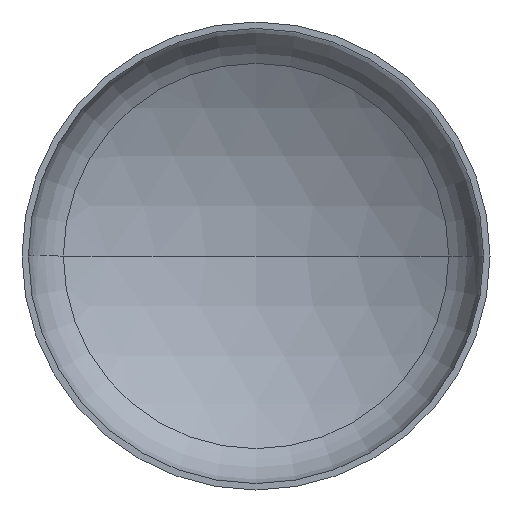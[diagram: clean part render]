
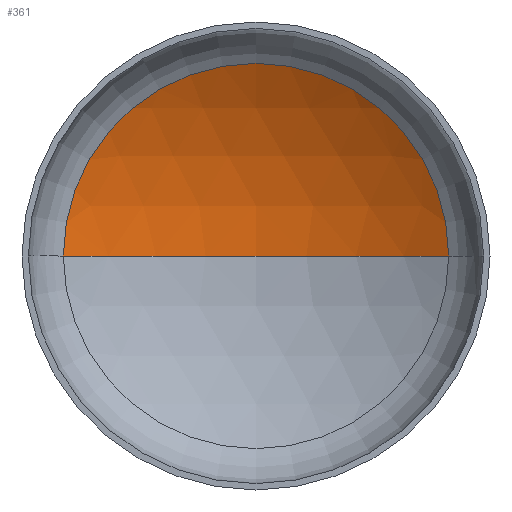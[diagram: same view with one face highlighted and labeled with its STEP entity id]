
A CAD part, front view. The second image highlights one B-rep face of the part: STEP entity #361.
In plain terms, the highlighted spherical face has radius 6400 mm.
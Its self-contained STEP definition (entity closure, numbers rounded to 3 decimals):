
#17 = VERTEX_POINT ( 'NONE', #178 ) ;
#38 = EDGE_LOOP ( 'NONE', ( #204, #380, #48 ) ) ;
#43 = CIRCLE ( 'NONE', #86, 6400. ) ;
#48 = ORIENTED_EDGE ( 'NONE', *, *, #114, .T. ) ;
#82 = VERTEX_POINT ( 'NONE', #411 ) ;
#85 = AXIS2_PLACEMENT_3D ( 'NONE', #349, #236, #235 ) ;
#86 = AXIS2_PLACEMENT_3D ( 'NONE', #389, #385, #388 ) ;
#87 = AXIS2_PLACEMENT_3D ( 'NONE', #104, #254, #398 ) ;
#88 = SPHERICAL_SURFACE ( 'NONE', #360, 6400. ) ;
#95 = CARTESIAN_POINT ( 'NONE',  ( 0., -4358.204, 0. ) ) ;
#104 = CARTESIAN_POINT ( 'NONE',  ( 0., 1129.708, 0. ) ) ;
#112 = DIRECTION ( 'NONE',  ( -1., 0., 0. ) ) ;
#114 = EDGE_CURVE ( 'NONE', #82, #17, #175, .T. ) ;
#115 = EDGE_CURVE ( 'NONE', #159, #82, #43, .T. ) ;
#120 = EDGE_CURVE ( 'NONE', #159, #17, #363, .T. ) ;
#134 = CARTESIAN_POINT ( 'NONE',  ( 0., 2041.796, 0. ) ) ;
#159 = VERTEX_POINT ( 'NONE', #134 ) ;
#175 = CIRCLE ( 'NONE', #87, 3292.843 ) ;
#178 = CARTESIAN_POINT ( 'NONE',  ( -3292.843, 1129.708, 0. ) ) ;
#204 = ORIENTED_EDGE ( 'NONE', *, *, #120, .F. ) ;
#211 = DIRECTION ( 'NONE',  ( 0., 0., -1. ) ) ;
#235 = DIRECTION ( 'NONE',  ( 1., 0., 0. ) ) ;
#236 = DIRECTION ( 'NONE',  ( 0., 0., 1. ) ) ;
#254 = DIRECTION ( 'NONE',  ( 0., -1., 0. ) ) ;
#318 = FACE_OUTER_BOUND ( 'NONE', #38, .T. ) ;
#349 = CARTESIAN_POINT ( 'NONE',  ( 0., -4358.204, 0. ) ) ;
#360 = AXIS2_PLACEMENT_3D ( 'NONE', #95, #211, #112 ) ;
#361 = ADVANCED_FACE ( 'NONE', ( #318 ), #88, .F. ) ;
#363 = CIRCLE ( 'NONE', #85, 6400. ) ;
#380 = ORIENTED_EDGE ( 'NONE', *, *, #115, .T. ) ;
#385 = DIRECTION ( 'NONE',  ( 0., 0., -1. ) ) ;
#388 = DIRECTION ( 'NONE',  ( -1., 0., 0. ) ) ;
#389 = CARTESIAN_POINT ( 'NONE',  ( 0., -4358.204, 0. ) ) ;
#398 = DIRECTION ( 'NONE',  ( 1., 0., 0. ) ) ;
#411 = CARTESIAN_POINT ( 'NONE',  ( 3292.843, 1129.708, 0. ) ) ;
